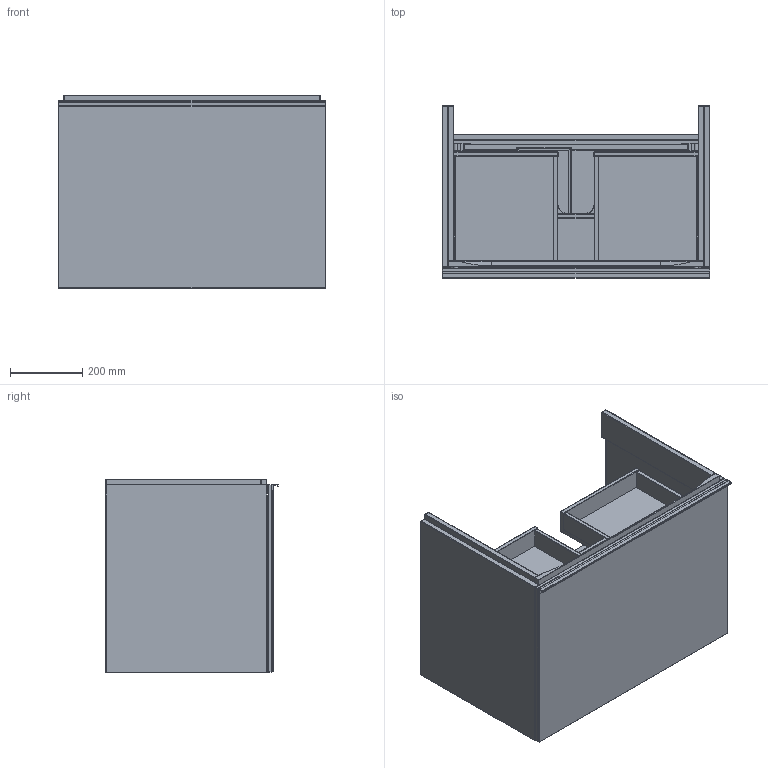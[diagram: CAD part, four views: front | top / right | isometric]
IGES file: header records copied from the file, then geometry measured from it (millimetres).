
Global section: file name: 500611; native system: Autodesk Inventor 2018; preprocessor: unknown; author: seihe2; date: 20200224.081745; units: millimetre
Bounding box: 740 x 476 x 535 mm (x, y, z)
Volume: 31660754.3 mm3; surface area: 4758191.6 mm2
Topology: 3 solids, 4 shells, 627 faces, 1506 edges, 792 vertices
Faces by surface type: bspline 627
